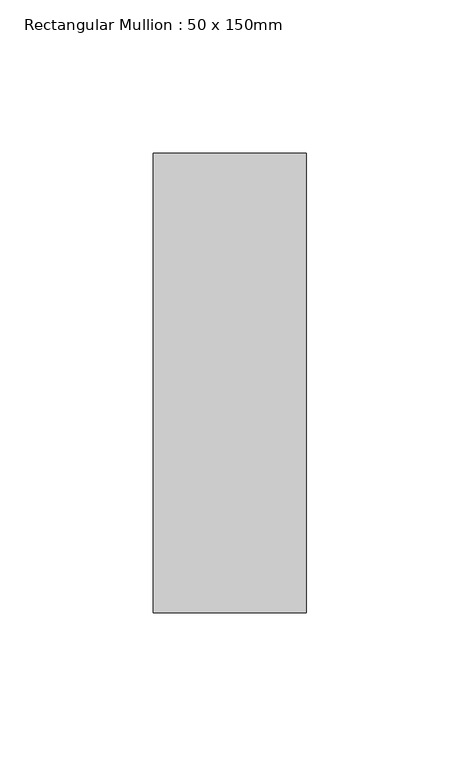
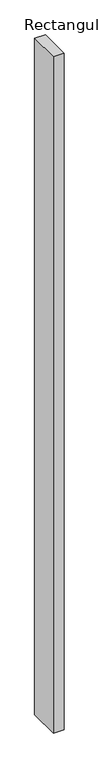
"""IFC4 building model written with IfcOpenShell, lengths in millimetres: member geometry, Rectangular Mullion : 50 x 150mm."""

from ifc_helpers import new_model, si_unit, frame, origin, place, context, project, spatial, polyline, outline, extrude, source, transform, mapped, element, save


def rectangular_mullion_50_x_150mm_f2553ced(model_context):
    return source(origin(), model_context, "Body", "SweptSolid", [
        extrude(outline(polyline([(0.0, 75.0), (0.0, -75.0), (-50.0, -75.0), (-50.0, 75.0), (0.0, 75.0)])), frame((0.0, 0.0, -3330.0), z_axis=(0.0, 0.0, 1.0), x_axis=(1.0, 0.0, 0.0)), (0.0, 0.0, 1.0), 3330.0),
    ])


if __name__ == "__main__":
    model = new_model("IFC4")
    model_context = context("Model", 3, world=origin())
    ifc_project = project(units=[si_unit("LENGTHUNIT", "METRE", prefix="MILLI")], contexts=[model_context])
    site = spatial("IfcSite", under=ifc_project)
    building = spatial("IfcBuilding", under=site)
    placement = place(None, origin())
    rectangular_mullion_50_x_150mm_shape = rectangular_mullion_50_x_150mm_f2553ced(model_context)
    element("IfcMember", 1, ObjectType="Rectangular Mullion : 50 x 150mm", at=placement, inside=building, context=model_context, shape_type="MappedRepresentation", body=[
        mapped(rectangular_mullion_50_x_150mm_shape, transform((0.0, 0.0, 0.0), x_axis=(1.0, 0.0, 0.0), y_axis=(0.0, 1.0, 0.0), z_axis=(0.0, 0.0, 1.0))),
    ])
    save(model, "model.ifc")
